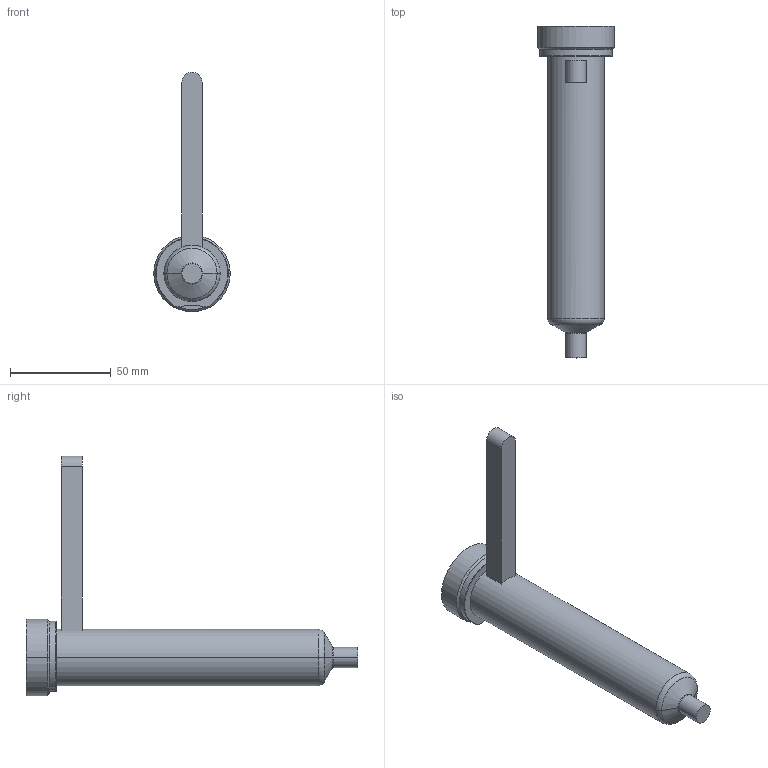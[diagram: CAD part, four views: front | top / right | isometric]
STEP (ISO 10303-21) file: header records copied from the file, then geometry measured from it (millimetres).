
FILE_DESCRIPTION((''),'2;1');
FILE_NAME('EO06_VG-FBE_STD_140_COT','2024-02-19T13:49:45',('sundharh'),(''),'CREO PARAMETRIC BY PTC INC, 2023154','CREO PARAMETRIC BY PTC INC, 2023154','');
FILE_SCHEMA(('CONFIG_CONTROL_DESIGN'));
Length unit declared in the file: millimetre
Products named in the file (1): EO06_VG-FBE_STD_140_COT
Bounding box: 38 x 165 x 119 mm (x, y, z)
Volume: 109440.5 mm3; surface area: 19524.3 mm2
Topology: 1 solids, 1 shells, 31 faces, 67 edges, 40 vertices
Faces by surface type: cylinder 11, plane 9, torus 7, cone 4
Entity records: 963 total; most frequent: CARTESIAN_POINT 230, DIRECTION 159, ORIENTED_EDGE 134, AXIS2_PLACEMENT_3D 67, EDGE_CURVE 67, VERTEX_POINT 40, CIRCLE 36, EDGE_LOOP 33
